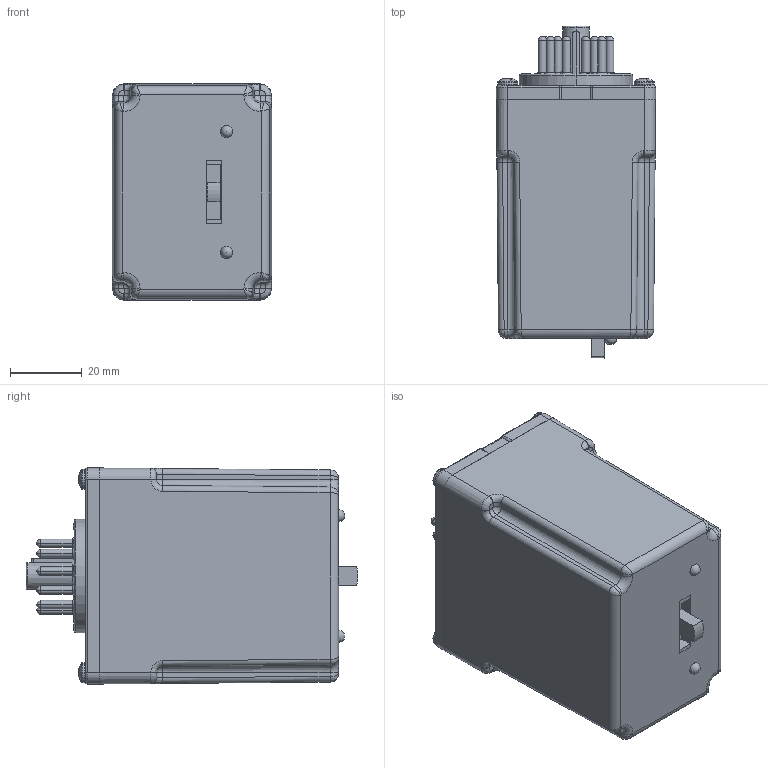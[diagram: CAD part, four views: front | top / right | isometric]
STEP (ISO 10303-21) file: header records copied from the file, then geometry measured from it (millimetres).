
FILE_DESCRIPTION(('FreeCAD Model'),'2;1');
FILE_NAME('Open CASCADE Shape Model','2023-06-06T11:55:23',(''),(''), 'Open CASCADE STEP processor 7.6','FreeCAD','Unknown');
FILE_SCHEMA(('AUTOMOTIVE_DESIGN { 1 0 10303 214 1 1 1 1 }'));
Products named in the file (1): Compound001
Bounding box: 44.45 x 92.68 x 60.33 mm (x, y, z)
Surface area: 44922.8 mm2 (no closed solid volume)
Topology: 0 solids, 24 shells, 1946 faces, 4798 edges, 2968 vertices
Faces by surface type: plane 605, cylinder 529, bspline 326, torus 282, revolution 140, cone 60, sphere 4
Entity records: 187519 total; most frequent: CARTESIAN_POINT 96665, DIRECTION 15137, ORIENTED_EDGE 9556, PCURVE 9556, DEFINITIONAL_REPRESENTATION 9556, LINE 8903, VECTOR 8903, EDGE_CURVE 4786
